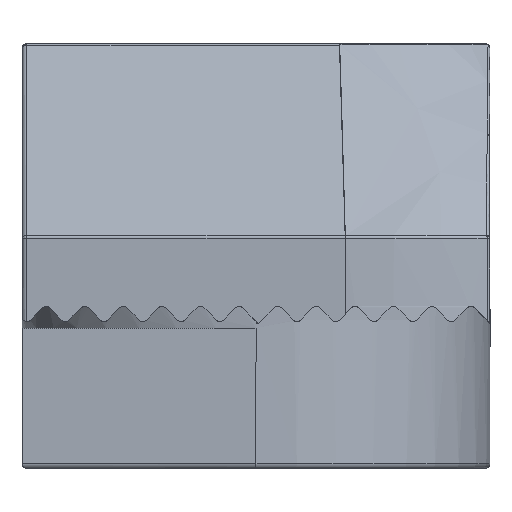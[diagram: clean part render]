
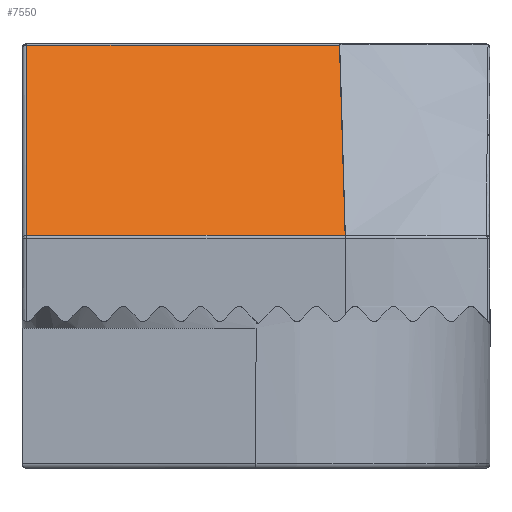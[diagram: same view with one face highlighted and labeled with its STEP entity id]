
A CAD part, front view. The second image highlights one B-rep face of the part: STEP entity #7550.
In plain terms, the highlighted planar face has unit normal (0, -0.707, 0.707).
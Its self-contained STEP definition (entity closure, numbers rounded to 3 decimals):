
#60 = VECTOR ( 'NONE', #4150, 1000. ) ;
#61 = LINE ( 'NONE', #4463, #60 ) ;
#62 = VECTOR ( 'NONE', #4330, 1000. ) ;
#63 = LINE ( 'NONE', #4178, #62 ) ;
#64 = LINE ( 'NONE', #4412, #70 ) ;
#70 = VECTOR ( 'NONE', #4273, 1000. ) ;
#2589 = VERTEX_POINT ( 'NONE', #4352 ) ;
#2610 = VERTEX_POINT ( 'NONE', #4477 ) ;
#2622 = VERTEX_POINT ( 'NONE', #4303 ) ;
#2718 = VERTEX_POINT ( 'NONE', #4300 ) ;
#2835 = VERTEX_POINT ( 'NONE', #4291 ) ;
#4103 = CARTESIAN_POINT ( 'NONE',  ( 1.848, -9.474, 1.826 ) ) ;
#4127 = CARTESIAN_POINT ( 'NONE',  ( 1.847, -9.474, 1.826 ) ) ;
#4139 = CARTESIAN_POINT ( 'NONE',  ( 1.831, -8.816, 2.484 ) ) ;
#4150 = DIRECTION ( 'NONE',  ( -1., 0., 0. ) ) ;
#4168 = CARTESIAN_POINT ( 'NONE',  ( 1.813, -8.158, 3.142 ) ) ;
#4178 = CARTESIAN_POINT ( 'NONE',  ( 1.847, -9.474, 1.826 ) ) ;
#4273 = DIRECTION ( 'NONE',  ( 0., -0.707, -0.707 ) ) ;
#4291 = CARTESIAN_POINT ( 'NONE',  ( 1.848, -9.474, 1.826 ) ) ;
#4294 = CARTESIAN_POINT ( 'NONE',  ( 1.787, -7.27, 4.03 ) ) ;
#4300 = CARTESIAN_POINT ( 'NONE',  ( 1.847, -9.474, 1.826 ) ) ;
#4303 = CARTESIAN_POINT ( 'NONE',  ( -4.75, -9.474, 1.826 ) ) ;
#4330 = DIRECTION ( 'NONE',  ( 1., 0., 0. ) ) ;
#4352 = CARTESIAN_POINT ( 'NONE',  ( 1.73, -5.529, 5.771 ) ) ;
#4392 = CARTESIAN_POINT ( 'NONE',  ( 1.847, -9.474, 1.826 ) ) ;
#4412 = CARTESIAN_POINT ( 'NONE',  ( -4.75, -9.5, 1.8 ) ) ;
#4426 = CARTESIAN_POINT ( 'NONE',  ( 1.848, -9.474, 1.826 ) ) ;
#4463 = CARTESIAN_POINT ( 'NONE',  ( 1.446, -5.529, 5.771 ) ) ;
#4477 = CARTESIAN_POINT ( 'NONE',  ( -4.75, -5.529, 5.771 ) ) ;
#4497 = CARTESIAN_POINT ( 'NONE',  ( 1.848, -9.474, 1.826 ) ) ;
#4513 = CARTESIAN_POINT ( 'NONE',  ( 1.773, -6.81, 4.49 ) ) ;
#4546 = CARTESIAN_POINT ( 'NONE',  ( 1.76, -6.383, 4.917 ) ) ;
#4549 = CARTESIAN_POINT ( 'NONE',  ( 1.78, -7.04, 4.26 ) ) ;
#4550 = CARTESIAN_POINT ( 'NONE',  ( 1.73, -5.529, 5.771 ) ) ;
#4559 = CARTESIAN_POINT ( 'NONE',  ( 1.746, -5.956, 5.344 ) ) ;
#4611 = CARTESIAN_POINT ( 'NONE',  ( 1.794, -7.5, 3.8 ) ) ;
#4729 = B_SPLINE_CURVE_WITH_KNOTS ( 'NONE', 3,
 ( #4103, #4139, #4168, #4611, #4294, #4549, #4513, #4546, #4559, #4550 ),
 .UNSPECIFIED., .F., .F.,
 ( 4, 3, 3, 4 ),
 ( 0., 0.003, 0.004, 0.006 ),
 .UNSPECIFIED. ) ;
#5125 = DIRECTION ( 'NONE',  ( 0., -0.707, -0.707 ) ) ;
#5126 = DIRECTION ( 'NONE',  ( 0., -0.707, 0.707 ) ) ;
#5135 = CARTESIAN_POINT ( 'NONE',  ( 1.446, -5.5, 5.8 ) ) ;
#5139 = PLANE ( 'NONE',  #11779 ) ;
#5511 = ORIENTED_EDGE ( 'NONE', *, *, #7151, .T. ) ;
#5604 = ORIENTED_EDGE ( 'NONE', *, *, #7155, .T. ) ;
#5605 = ORIENTED_EDGE ( 'NONE', *, *, #7150, .T. ) ;
#5606 = ORIENTED_EDGE ( 'NONE', *, *, #7153, .T. ) ;
#5607 = ORIENTED_EDGE ( 'NONE', *, *, #7154, .T. ) ;
#6092 = EDGE_LOOP ( 'NONE', ( #5607, #5606, #5605, #5604, #5511 ) ) ;
#7150 = EDGE_CURVE ( 'NONE', #2835, #2589, #4729, .T. ) ;
#7151 = EDGE_CURVE ( 'NONE', #2610, #2622, #64, .T. ) ;
#7153 = EDGE_CURVE ( 'NONE', #2718, #2835, #10596, .T. ) ;
#7154 = EDGE_CURVE ( 'NONE', #2622, #2718, #63, .T. ) ;
#7155 = EDGE_CURVE ( 'NONE', #2589, #2610, #61, .T. ) ;
#7550 = ADVANCED_FACE ( 'NONE', ( #11291 ), #5139, .T. ) ;
#10596 =( BOUNDED_CURVE ( )  B_SPLINE_CURVE ( 3, ( #4392, #4127, #4497, #4426 ),
 .UNSPECIFIED., .F., .T. ) 
 B_SPLINE_CURVE_WITH_KNOTS ( ( 4, 4 ),
 ( 0., 0.007 ),
 .UNSPECIFIED. ) 
 CURVE ( )  GEOMETRIC_REPRESENTATION_ITEM ( )  RATIONAL_B_SPLINE_CURVE ( ( 1., 1., 1., 1. ) ) 
 REPRESENTATION_ITEM ( '' )  );
#11291 = FACE_OUTER_BOUND ( 'NONE', #6092, .T. ) ;
#11779 = AXIS2_PLACEMENT_3D ( 'NONE', #5135, #5126, #5125 ) ;
